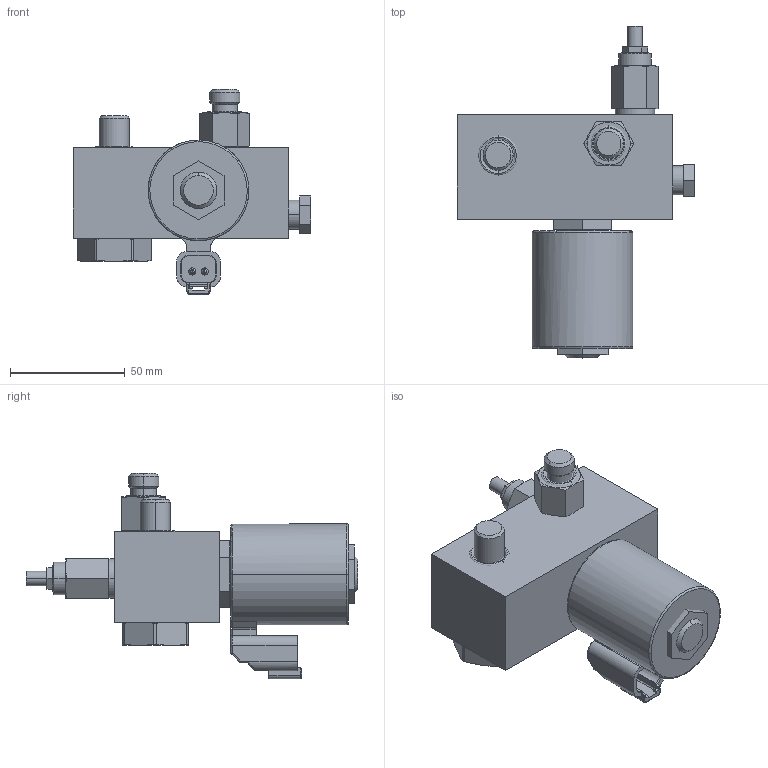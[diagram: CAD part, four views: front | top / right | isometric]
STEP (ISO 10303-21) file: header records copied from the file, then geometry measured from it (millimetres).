
FILE_DESCRIPTION((''),'2;1');
FILE_NAME('24M478-EN-L_PRT','2023-11-07T14:30:21',('qtmwp1'),(''),'CREO PARAMETRIC BY PTC INC, 2021072','CREO PARAMETRIC BY PTC INC, 2021072','');
FILE_SCHEMA(('CONFIG_CONTROL_DESIGN'));
Length unit declared in the file: inch
Products named in the file (1): 24M478-EN-L_PRT
Bounding box: 103.5 x 144.86 x 89.59 mm (x, y, z)
Surface area: 47764.5 mm2 (no closed solid volume)
Topology: 0 solids, 22 shells, 220 faces, 601 edges, 388 vertices
Faces by surface type: plane 104, cylinder 55, cone 40, torus 15, bspline 6
Entity records: 7373 total; most frequent: CARTESIAN_POINT 1828, DIRECTION 1182, ORIENTED_EDGE 1092, EDGE_CURVE 601, AXIS2_PLACEMENT_3D 432, VERTEX_POINT 388, VECTOR 318, LINE 318
